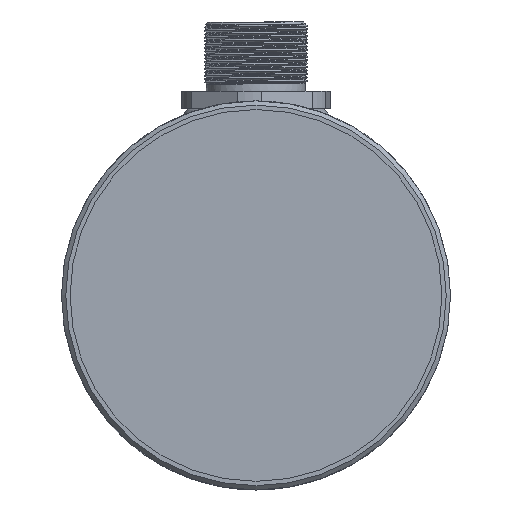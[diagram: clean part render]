
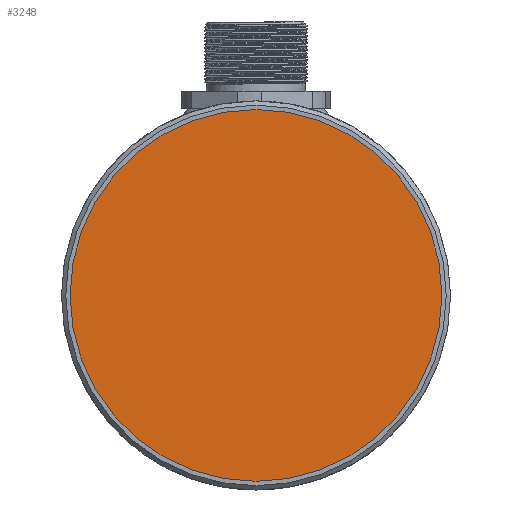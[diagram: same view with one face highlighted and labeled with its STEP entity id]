
A CAD part, left-side view. The second image highlights one B-rep face of the part: STEP entity #3248.
In plain terms, the highlighted planar face has unit normal (-1, 0, 0).
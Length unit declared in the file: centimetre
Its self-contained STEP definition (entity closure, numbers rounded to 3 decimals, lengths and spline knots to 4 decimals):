
#847=CIRCLE('',#3459,2.15);
#953=VERTEX_POINT('',#4253);
#1508=EDGE_CURVE('',#953,#953,#847,.T.);
#1942=ORIENTED_EDGE('',*,*,#1508,.T.);
#2759=EDGE_LOOP('',(#1942));
#3006=FACE_BOUND('',#2759,.T.);
#3248=ADVANCED_FACE('',(#3006),#18587,.T.);
#3459=AXIS2_PLACEMENT_3D('',#4252,#3713,#3714);
#3461=AXIS2_PLACEMENT_3D('',#4256,#3717,$);
#3713=DIRECTION('',(-1.,0.,0.));
#3714=DIRECTION('',(0.,0.,2.15));
#3717=DIRECTION('',(-1.,0.,0.));
#4252=CARTESIAN_POINT('',(0.1,0.,0.));
#4253=CARTESIAN_POINT('',(0.1,0.,2.15));
#4256=CARTESIAN_POINT('',(0.1,0.,0.));
#18587=PLANE('',#3461);
